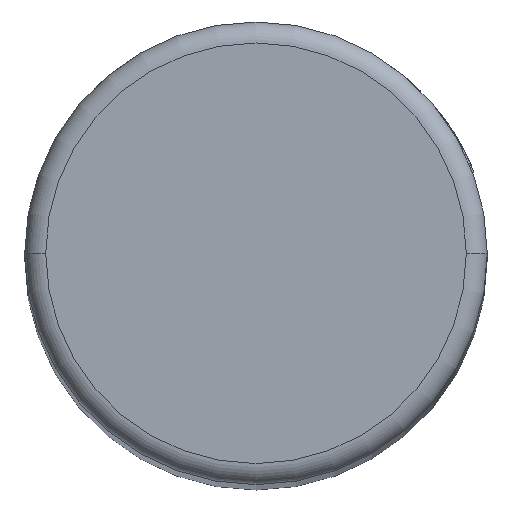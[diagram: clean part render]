
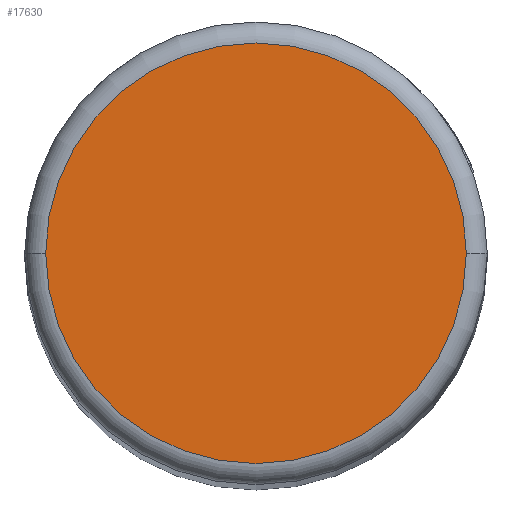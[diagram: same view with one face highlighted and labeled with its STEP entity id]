
A CAD part, top view. The second image highlights one B-rep face of the part: STEP entity #17630.
In plain terms, the highlighted planar face has unit normal (0, 0, 1).
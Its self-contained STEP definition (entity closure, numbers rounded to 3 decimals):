
#5520=CARTESIAN_POINT('',(0.,0.,74.25));
#5521=DIRECTION('',(0.,0.,1.));
#5522=DIRECTION('',(-1.,0.,0.));
#5523=AXIS2_PLACEMENT_3D('',#5520,#5521,#5522);
#5525=CARTESIAN_POINT('',(0.,0.,74.25));
#5526=DIRECTION('',(0.,0.,1.));
#5527=DIRECTION('',(1.,0.,0.));
#5528=AXIS2_PLACEMENT_3D('',#5525,#5526,#5527);
#6545=CARTESIAN_POINT('',(-10.,0.,74.25));
#6546=CARTESIAN_POINT('',(10.,0.,74.25));
#6547=VERTEX_POINT('',#6545);
#6548=VERTEX_POINT('',#6546);
#17620=CARTESIAN_POINT('',(0.,0.,74.25));
#17621=DIRECTION('',(0.,0.,1.));
#17622=DIRECTION('',(1.,0.,0.));
#17623=AXIS2_PLACEMENT_3D('',#17620,#17621,#17622);
#17624=PLANE('',#17623);
#17625=ORIENTED_EDGE('',*,*,#17610,.F.);
#17627=ORIENTED_EDGE('',*,*,#17626,.F.);
#17628=EDGE_LOOP('',(#17625,#17627));
#17629=FACE_OUTER_BOUND('',#17628,.F.);
#17630=ADVANCED_FACE('',(#17629),#17624,.T.);
#5524=CIRCLE('',#5523,10.);
#5529=CIRCLE('',#5528,10.);
#17610=EDGE_CURVE('',#6547,#6548,#5524,.T.);
#17626=EDGE_CURVE('',#6548,#6547,#5529,.T.);
